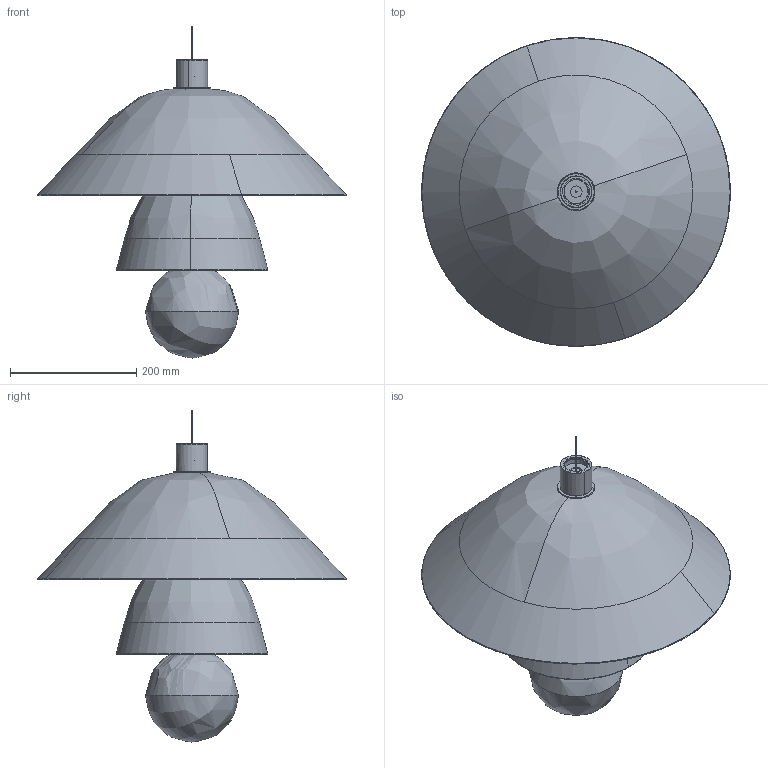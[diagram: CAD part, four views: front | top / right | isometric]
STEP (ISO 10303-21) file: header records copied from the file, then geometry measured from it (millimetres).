
FILE_DESCRIPTION(/* description */ (''),/* implementation_level */ '2;1');
FILE_NAME(/* name */ 'SEM.000222',/* time_stamp */ '2023-05-11T16:47:13+02:00',/* author */ (''),/* organization */ (''),/* preprocessor_version */ 'ST-DEVELOPER v16.5',/* originating_system */ 'Rhino 7.29',/* authorisation */ '');
FILE_SCHEMA (('CONFIG_CONTROL_DESIGN'));
Length unit declared in the file: millimetre
Products named in the file (10): Document; MET.005642; MET.006349; PLA.005260; VET.005135; VET.005127; PLA.005261; VET.005123; PLA.005262; VET.005125
Assembly tree (16 placements, depth 2):
  Document
    MET.005642
    MET.006349
    PLA.005260
    VET.005135
    VET.005127
    PLA.005261  x6
    VET.005123  x2
    PLA.005262  x2
    VET.005125
Bounding box: 489.97 x 489.99 x 526.98 mm (x, y, z)
Volume: 1431346.5 mm3; surface area: 1205120.7 mm2
Topology: 18 solids, 19 shells, 884 faces, 2085 edges, 1177 vertices
Faces by surface type: bspline 694, cylinder 132, plane 58
Entity records: 16493 total; most frequent: CARTESIAN_POINT 11447, ORIENTED_EDGE 1368, EDGE_CURVE 686, VERTEX_POINT 436, EDGE_LOOP 314, ADVANCED_FACE 286, FACE_OUTER_BOUND 286, B_SPLINE_CURVE_WITH_KNOTS 198
